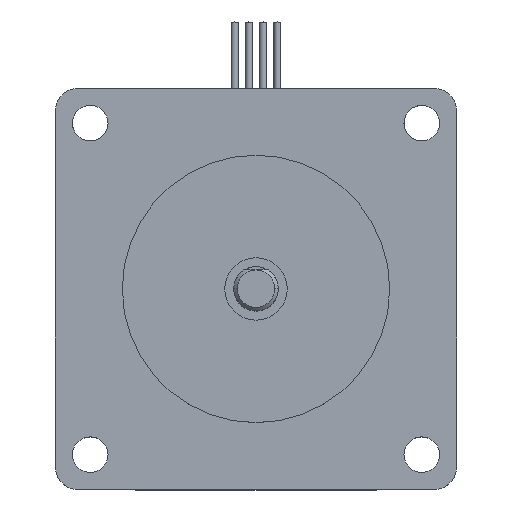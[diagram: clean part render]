
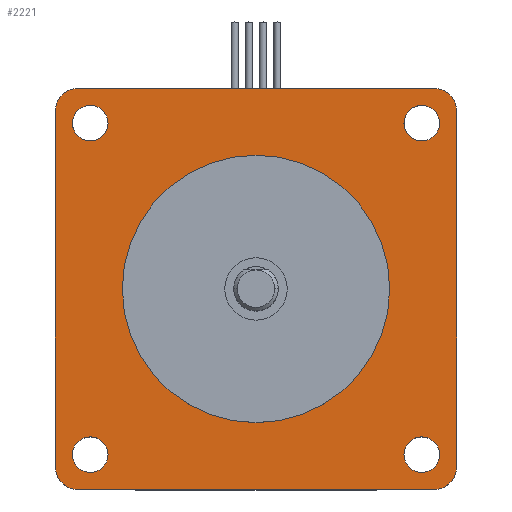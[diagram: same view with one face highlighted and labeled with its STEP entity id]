
A CAD part, top view. The second image highlights one B-rep face of the part: STEP entity #2221.
In plain terms, the highlighted planar face has unit normal (0, 0, 1).
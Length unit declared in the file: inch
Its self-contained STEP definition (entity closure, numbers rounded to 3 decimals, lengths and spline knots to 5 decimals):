
#237=CARTESIAN_POINT('',(-1.03,0.93,1.73));
#238=VERTEX_POINT('',#237);
#254=CARTESIAN_POINT('',(-0.83,0.93,1.73));
#255=VERTEX_POINT('',#254);
#262=CARTESIAN_POINT('',(-0.93,0.93,1.73));
#263=DIRECTION('',(0.0,0.0,-1.0));
#264=DIRECTION('',(-1.0,0.0,0.0));
#265=AXIS2_PLACEMENT_3D('',#262,#263,#264);
#266=CIRCLE('',#265,0.1);
#267=EDGE_CURVE('',#238,#255,#266,.T.);
#279=CARTESIAN_POINT('',(0.93,1.03,1.73));
#280=VERTEX_POINT('',#279);
#296=CARTESIAN_POINT('',(0.93,0.83,1.73));
#297=VERTEX_POINT('',#296);
#304=CARTESIAN_POINT('',(0.93,0.93,1.73));
#305=DIRECTION('',(0.0,0.0,-1.0));
#306=DIRECTION('',(0.0,1.0,0.0));
#307=AXIS2_PLACEMENT_3D('',#304,#305,#306);
#308=CIRCLE('',#307,0.1);
#309=EDGE_CURVE('',#280,#297,#308,.T.);
#321=CARTESIAN_POINT('',(-0.93,-1.03,1.73));
#322=VERTEX_POINT('',#321);
#338=CARTESIAN_POINT('',(-0.93,-0.83,1.73));
#339=VERTEX_POINT('',#338);
#346=CARTESIAN_POINT('',(-0.93,-0.93,1.73));
#347=DIRECTION('',(0.0,0.0,-1.0));
#348=DIRECTION('',(0.0,-1.0,0.0));
#349=AXIS2_PLACEMENT_3D('',#346,#347,#348);
#350=CIRCLE('',#349,0.1);
#351=EDGE_CURVE('',#322,#339,#350,.T.);
#363=CARTESIAN_POINT('',(1.03,-0.93,1.73));
#364=VERTEX_POINT('',#363);
#380=CARTESIAN_POINT('',(0.83,-0.93,1.73));
#381=VERTEX_POINT('',#380);
#388=CARTESIAN_POINT('',(0.93,-0.93,1.73));
#389=DIRECTION('',(0.0,0.0,-1.0));
#390=DIRECTION('',(1.0,0.0,0.0));
#391=AXIS2_PLACEMENT_3D('',#388,#389,#390);
#392=CIRCLE('',#391,0.1);
#393=EDGE_CURVE('',#364,#381,#392,.T.);
#403=CARTESIAN_POINT('',(-0.75,0.,1.73));
#404=VERTEX_POINT('',#403);
#413=CARTESIAN_POINT('',(0.75,0.,1.73));
#414=VERTEX_POINT('',#413);
#415=CARTESIAN_POINT('',(0.0,0.0,1.73));
#416=DIRECTION('',(0.0,0.0,-1.0));
#417=DIRECTION('',(-1.0,0.0,0.0));
#418=AXIS2_PLACEMENT_3D('',#415,#416,#417);
#419=CIRCLE('',#418,0.75);
#420=EDGE_CURVE('',#414,#404,#419,.T.);
#1496=CARTESIAN_POINT('',(1.0,-1.125,1.73));
#1497=VERTEX_POINT('',#1496);
#1504=CARTESIAN_POINT('',(-1.,-1.125,1.73));
#1505=VERTEX_POINT('',#1504);
#1506=CARTESIAN_POINT('',(-1.,-1.125,1.73));
#1507=DIRECTION('',(1.0,0.0,0.0));
#1508=VECTOR('',#1507,2.);
#1509=LINE('',#1506,#1508);
#1510=EDGE_CURVE('',#1505,#1497,#1509,.T.);
#1535=CARTESIAN_POINT('',(-1.125,-1.,1.73));
#1536=VERTEX_POINT('',#1535);
#1543=CARTESIAN_POINT('',(-1.125,1.0,1.73));
#1544=VERTEX_POINT('',#1543);
#1545=CARTESIAN_POINT('',(-1.125,1.0,1.73));
#1546=DIRECTION('',(0.0,-1.0,0.0));
#1547=VECTOR('',#1546,2.);
#1548=LINE('',#1545,#1547);
#1549=EDGE_CURVE('',#1544,#1536,#1548,.T.);
#1977=CARTESIAN_POINT('',(-1.,1.125,1.73));
#1978=VERTEX_POINT('',#1977);
#1979=CARTESIAN_POINT('',(-1.,1.0,1.73));
#1980=DIRECTION('',(0.0,0.0,1.0));
#1981=DIRECTION('',(0.0,1.0,0.0));
#1982=AXIS2_PLACEMENT_3D('',#1979,#1980,#1981);
#1983=CIRCLE('',#1982,0.125);
#1984=EDGE_CURVE('',#1978,#1544,#1983,.T.);
#2002=CARTESIAN_POINT('',(-1.,-1.,1.73));
#2003=DIRECTION('',(0.0,0.0,1.0));
#2004=DIRECTION('',(-1.0,0.0,0.0));
#2005=AXIS2_PLACEMENT_3D('',#2002,#2003,#2004);
#2006=CIRCLE('',#2005,0.125);
#2007=EDGE_CURVE('',#1536,#1505,#2006,.T.);
#2028=CARTESIAN_POINT('',(1.0,1.125,1.73));
#2029=VERTEX_POINT('',#2028);
#2030=CARTESIAN_POINT('',(1.0,1.125,1.73));
#2031=DIRECTION('',(-1.0,0.0,0.0));
#2032=VECTOR('',#2031,2.0);
#2033=LINE('',#2030,#2032);
#2034=EDGE_CURVE('',#2029,#1978,#2033,.T.);
#2068=CARTESIAN_POINT('',(1.125,-1.,1.73));
#2069=VERTEX_POINT('',#2068);
#2076=CARTESIAN_POINT('',(1.0,-1.,1.73));
#2077=DIRECTION('',(0.0,0.0,1.0));
#2078=DIRECTION('',(0.0,-1.0,0.0));
#2079=AXIS2_PLACEMENT_3D('',#2076,#2077,#2078);
#2080=CIRCLE('',#2079,0.125);
#2081=EDGE_CURVE('',#1497,#2069,#2080,.T.);
#2125=CARTESIAN_POINT('',(0.0,0.0,1.73));
#2126=DIRECTION('',(0.0,0.0,-1.0));
#2127=DIRECTION('',(-1.0,0.0,0.0));
#2128=AXIS2_PLACEMENT_3D('',#2125,#2126,#2127);
#2129=CIRCLE('',#2128,0.75);
#2130=EDGE_CURVE('',#404,#414,#2129,.T.);
#2149=CARTESIAN_POINT('',(0.0,0.0,1.73));
#2150=DIRECTION('',(0.0,0.0,1.0));
#2151=DIRECTION('',(1.0,0.0,0.0));
#2152=AXIS2_PLACEMENT_3D('',#2149,#2150,#2151);
#2153=PLANE('',#2152);
#2154=ORIENTED_EDGE('',*,*,#1984,.T.);
#2155=ORIENTED_EDGE('',*,*,#1549,.T.);
#2156=ORIENTED_EDGE('',*,*,#2007,.T.);
#2157=ORIENTED_EDGE('',*,*,#1510,.T.);
#2158=ORIENTED_EDGE('',*,*,#2081,.T.);
#2159=CARTESIAN_POINT('',(1.125,1.0,1.73));
#2160=VERTEX_POINT('',#2159);
#2161=CARTESIAN_POINT('',(1.125,-1.,1.73));
#2162=DIRECTION('',(0.0,1.0,0.0));
#2163=VECTOR('',#2162,2.);
#2164=LINE('',#2161,#2163);
#2165=EDGE_CURVE('',#2069,#2160,#2164,.T.);
#2166=ORIENTED_EDGE('',*,*,#2165,.T.);
#2167=CARTESIAN_POINT('',(1.0,1.0,1.73));
#2168=DIRECTION('',(0.0,0.0,1.0));
#2169=DIRECTION('',(1.0,0.0,0.0));
#2170=AXIS2_PLACEMENT_3D('',#2167,#2168,#2169);
#2171=CIRCLE('',#2170,0.125);
#2172=EDGE_CURVE('',#2160,#2029,#2171,.T.);
#2173=ORIENTED_EDGE('',*,*,#2172,.T.);
#2174=ORIENTED_EDGE('',*,*,#2034,.T.);
#2175=EDGE_LOOP('',(#2154,#2155,#2156,#2157,#2158,#2166,#2173,#2174));
#2176=FACE_OUTER_BOUND('',#2175,.T.);
#2177=CARTESIAN_POINT('',(-0.93,0.93,1.73));
#2178=DIRECTION('',(0.0,0.0,-1.0));
#2179=DIRECTION('',(-1.0,0.0,0.0));
#2180=AXIS2_PLACEMENT_3D('',#2177,#2178,#2179);
#2181=CIRCLE('',#2180,0.1);
#2182=EDGE_CURVE('',#255,#238,#2181,.T.);
#2183=ORIENTED_EDGE('',*,*,#2182,.T.);
#2184=ORIENTED_EDGE('',*,*,#267,.T.);
#2185=EDGE_LOOP('',(#2183,#2184));
#2186=FACE_BOUND('',#2185,.T.);
#2187=CARTESIAN_POINT('',(0.93,0.93,1.73));
#2188=DIRECTION('',(0.0,0.0,-1.0));
#2189=DIRECTION('',(0.0,1.0,0.0));
#2190=AXIS2_PLACEMENT_3D('',#2187,#2188,#2189);
#2191=CIRCLE('',#2190,0.1);
#2192=EDGE_CURVE('',#297,#280,#2191,.T.);
#2193=ORIENTED_EDGE('',*,*,#2192,.T.);
#2194=ORIENTED_EDGE('',*,*,#309,.T.);
#2195=EDGE_LOOP('',(#2193,#2194));
#2196=FACE_BOUND('',#2195,.T.);
#2197=CARTESIAN_POINT('',(-0.93,-0.93,1.73));
#2198=DIRECTION('',(0.0,0.0,-1.0));
#2199=DIRECTION('',(0.0,-1.0,0.0));
#2200=AXIS2_PLACEMENT_3D('',#2197,#2198,#2199);
#2201=CIRCLE('',#2200,0.1);
#2202=EDGE_CURVE('',#339,#322,#2201,.T.);
#2203=ORIENTED_EDGE('',*,*,#2202,.T.);
#2204=ORIENTED_EDGE('',*,*,#351,.T.);
#2205=EDGE_LOOP('',(#2203,#2204));
#2206=FACE_BOUND('',#2205,.T.);
#2207=CARTESIAN_POINT('',(0.93,-0.93,1.73));
#2208=DIRECTION('',(0.0,0.0,-1.0));
#2209=DIRECTION('',(1.0,0.0,0.0));
#2210=AXIS2_PLACEMENT_3D('',#2207,#2208,#2209);
#2211=CIRCLE('',#2210,0.1);
#2212=EDGE_CURVE('',#381,#364,#2211,.T.);
#2213=ORIENTED_EDGE('',*,*,#2212,.T.);
#2214=ORIENTED_EDGE('',*,*,#393,.T.);
#2215=EDGE_LOOP('',(#2213,#2214));
#2216=FACE_BOUND('',#2215,.T.);
#2217=ORIENTED_EDGE('',*,*,#420,.T.);
#2218=ORIENTED_EDGE('',*,*,#2130,.T.);
#2219=EDGE_LOOP('',(#2217,#2218));
#2220=FACE_BOUND('',#2219,.T.);
#2221=ADVANCED_FACE('',(#2176,#2186,#2196,#2206,#2216,#2220),#2153,.T.);
